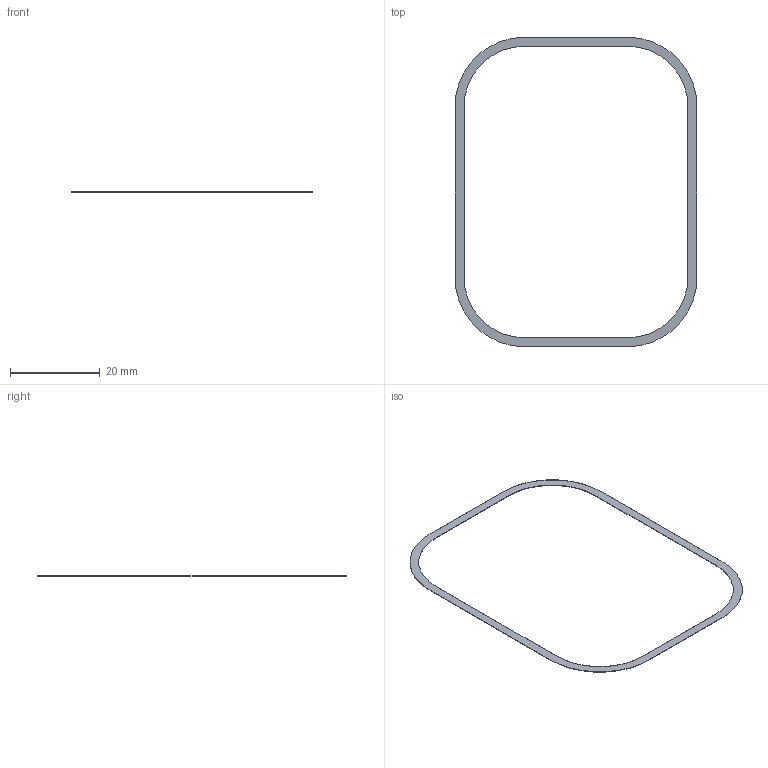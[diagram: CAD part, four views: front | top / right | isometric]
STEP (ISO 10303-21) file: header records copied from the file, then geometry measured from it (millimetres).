
FILE_DESCRIPTION(('Open CASCADE Model'),'2;1');
FILE_NAME('Open CASCADE Shape Model','2026-09-06T11:30:50',('Author'),( 'Open CASCADE'),'Open CASCADE STEP processor 7.7','Open CASCADE 7.7' ,'Unknown');
FILE_SCHEMA(('AUTOMOTIVE_DESIGN { 1 0 10303 214 1 1 1 1 }'));
Length unit declared in the file: millimetre
Products named in the file (1): Open CASCADE STEP translator 7.7 32
Bounding box: 53.8 x 68.8 x 0.1 mm (x, y, z)
Volume: 42.5 mm3; surface area: 892.4 mm2
Topology: 1 solids, 1 shells, 18 faces, 48 edges, 32 vertices
Faces by surface type: plane 10, cylinder 8
Entity records: 1202 total; most frequent: CARTESIAN_POINT 235, DIRECTION 178, ORIENTED_EDGE 96, LINE 96, VECTOR 96, PCURVE 96, DEFINITIONAL_REPRESENTATION 96, EDGE_CURVE 48
